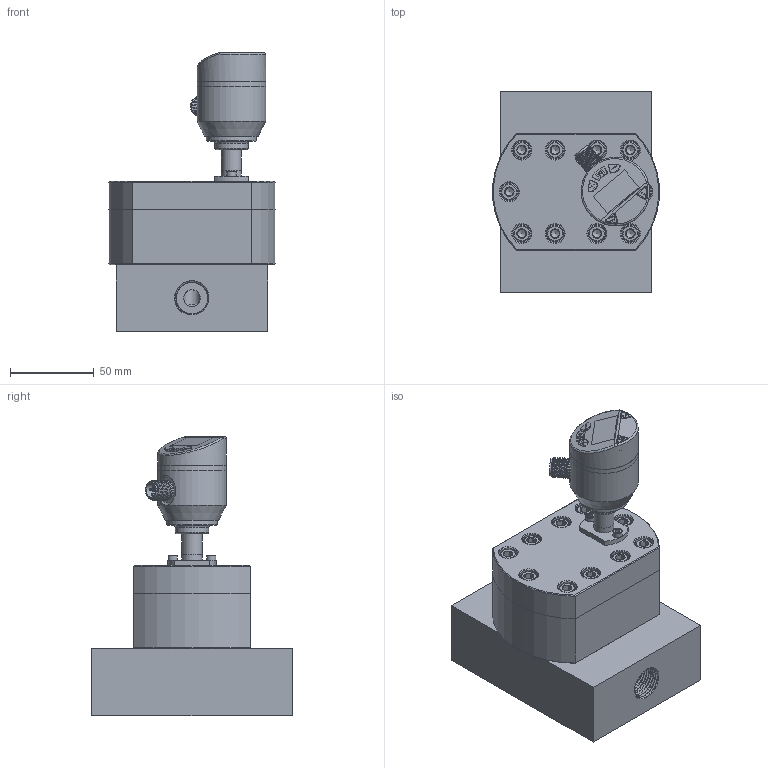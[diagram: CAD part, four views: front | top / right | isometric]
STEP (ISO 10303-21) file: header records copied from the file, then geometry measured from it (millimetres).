
FILE_DESCRIPTION( (''), '2;1');
FILE_NAME( 'QZKB_20L_M10_mounting-plate.step', '2025-05-06T15:25:36+08:00', (''), (''), '', '', '');
FILE_SCHEMA (('AUTOMOTIVE_DESIGN { 1 0 10303 214 3 1 1 1 }'));
Products named in the file (1): QZKB 20L_M10_mounting-plate
Bounding box: 99.63 x 120 x 167.2 mm (x, y, z)
Volume: 759423.7 mm3; surface area: 140745.1 mm2
Topology: 27 solids, 27 shells, 1183 faces, 2746 edges, 1699 vertices
Faces by surface type: plane 568, cylinder 296, cone 192, torus 65, bspline 47, sphere 11, extrusion 4
Full cylindrical faces by diameter (mm): 1 x10, 2.5 x2, 2.7 x5, 2.874 x2, 3 x2, 3.1 x1, 3.5 x4, 4 x3, 5 x18, 5.5 x2, 5.795 x10, 6 x3, 6.5 x14, 7 x3, 8 x5, 8.4 x1, 9.7 x1, 9.8 x1, 10 x16, 10.1 x1, 11 x11, 11.6 x2, 12 x3, 12.5 x1, 16.5 x1, 20 x1, 23 x3, 26 x4, 26.1 x1, 30 x1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
Entity records: 53110 total; most frequent: CARTESIAN_POINT 27075, DIRECTION 5328, ORIENTED_EDGE 4780, EDGE_CURVE 2390, AXIS2_PLACEMENT_3D 2100, VERTEX_POINT 1637, EDGE_LOOP 1587, ADVANCED_FACE 1182
